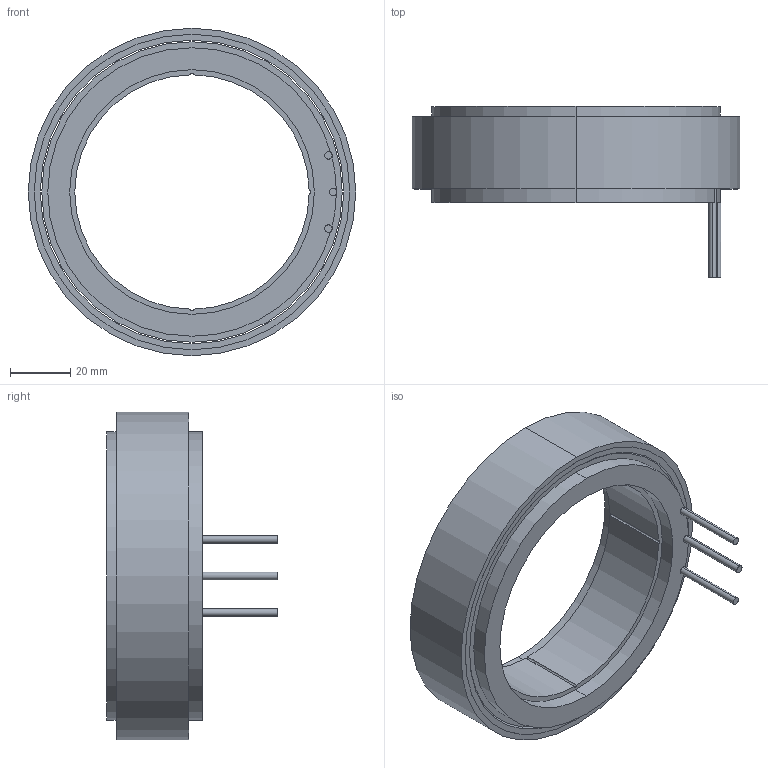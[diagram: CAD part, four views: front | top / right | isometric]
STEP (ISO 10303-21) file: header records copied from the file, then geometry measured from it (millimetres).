
FILE_DESCRIPTION (( 'STEP AP214' ), '1' );
FILE_NAME ('UE10933µç»ú.STEP', '2026-02-26T06:44:58', ( 'Windows User' ), ( 'P R C' ), 'SwSTEP 2.0', 'SolidWorks 2023', '' );
FILE_SCHEMA (( 'AUTOMOTIVE_DESIGN' ));
Length unit declared in the file: millimetre
Products named in the file (1): UE10933电机
Bounding box: 109 x 56.9 x 109 mm (x, y, z)
Volume: 120869.4 mm3; surface area: 43087.3 mm2
Topology: 2 solids, 2 shells, 49 faces, 117 edges, 78 vertices
Faces by surface type: cylinder 36, plane 13
Entity records: 1762 total; most frequent: DIRECTION 295, CARTESIAN_POINT 245, ORIENTED_EDGE 234, AXIS2_PLACEMENT_3D 128, EDGE_CURVE 117, CIRCLE 78, VERTEX_POINT 78, EDGE_LOOP 59
